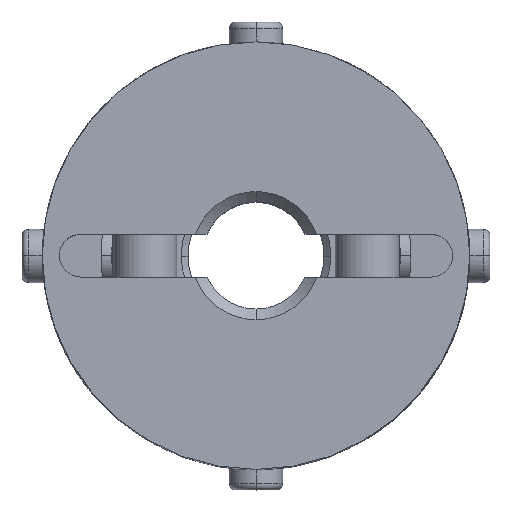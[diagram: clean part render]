
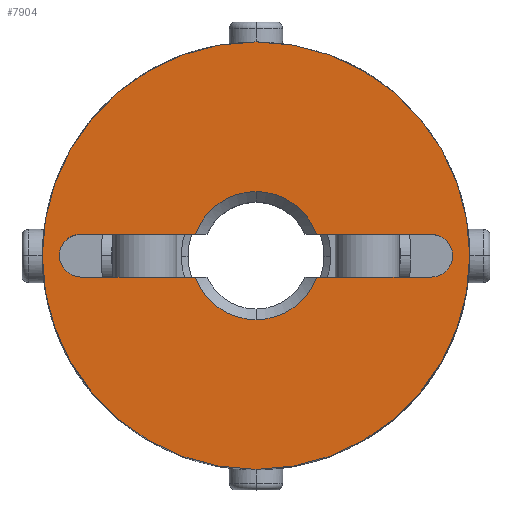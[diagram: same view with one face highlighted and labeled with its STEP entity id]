
A CAD part, top view. The second image highlights one B-rep face of the part: STEP entity #7904.
In plain terms, the highlighted planar face has unit normal (0, 0, 1).
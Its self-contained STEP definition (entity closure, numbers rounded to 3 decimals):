
#633=CARTESIAN_POINT('',(-8.907,-0.707,10.0));
#634=VERTEX_POINT('',#633);
#650=CARTESIAN_POINT('',(-8.2,1.,10.0));
#651=VERTEX_POINT('',#650);
#658=CARTESIAN_POINT('',(-8.2,0.,10.0));
#659=DIRECTION('',(0.0,0.0,1.0));
#660=DIRECTION('',(-0.707,0.707,0.0));
#661=AXIS2_PLACEMENT_3D('',#658,#659,#660);
#662=CIRCLE('',#661,1.);
#663=EDGE_CURVE('',#651,#634,#662,.T.);
#675=CARTESIAN_POINT('',(8.907,0.707,10.0));
#676=VERTEX_POINT('',#675);
#692=CARTESIAN_POINT('',(8.2,-1.,10.0));
#693=VERTEX_POINT('',#692);
#700=CARTESIAN_POINT('',(8.2,0.,10.0));
#701=DIRECTION('',(0.0,0.0,1.0));
#702=DIRECTION('',(0.707,-0.707,0.0));
#703=AXIS2_PLACEMENT_3D('',#700,#701,#702);
#704=CIRCLE('',#703,1.0);
#705=EDGE_CURVE('',#693,#676,#704,.T.);
#715=CARTESIAN_POINT('',(0.,-3.0,10.0));
#716=VERTEX_POINT('',#715);
#724=CARTESIAN_POINT('',(-2.828,-1.,10.0));
#725=VERTEX_POINT('',#724);
#739=CARTESIAN_POINT('',(0.,0.,10.0));
#740=DIRECTION('',(0.0,0.0,1.0));
#741=DIRECTION('',(0.0,-1.0,0.0));
#742=AXIS2_PLACEMENT_3D('',#739,#740,#741);
#743=CIRCLE('',#742,3.0);
#744=EDGE_CURVE('',#725,#716,#743,.T.);
#756=CARTESIAN_POINT('',(0.,3.0,10.0));
#757=VERTEX_POINT('',#756);
#773=CARTESIAN_POINT('',(2.828,1.,10.0));
#774=VERTEX_POINT('',#773);
#788=CARTESIAN_POINT('',(0.,0.,10.0));
#789=DIRECTION('',(0.0,0.0,1.0));
#790=DIRECTION('',(0.0,1.0,0.0));
#791=AXIS2_PLACEMENT_3D('',#788,#789,#790);
#792=CIRCLE('',#791,3.0);
#793=EDGE_CURVE('',#774,#757,#792,.T.);
#1385=CARTESIAN_POINT('',(0.,-10.0,10.0));
#1386=VERTEX_POINT('',#1385);
#1393=CARTESIAN_POINT('',(0.,10.0,10.0));
#1394=VERTEX_POINT('',#1393);
#1395=CARTESIAN_POINT('',(0.0,0.0,10.0));
#1396=DIRECTION('',(0.0,0.0,-1.0));
#1397=DIRECTION('',(0.0,1.0,0.0));
#1398=AXIS2_PLACEMENT_3D('',#1395,#1396,#1397);
#1399=CIRCLE('',#1398,10.0);
#1400=EDGE_CURVE('',#1386,#1394,#1399,.T.);
#7211=CARTESIAN_POINT('',(0.0,0.0,10.0));
#7212=DIRECTION('',(0.0,0.0,-1.0));
#7213=DIRECTION('',(0.0,1.0,0.0));
#7214=AXIS2_PLACEMENT_3D('',#7211,#7212,#7213);
#7215=CIRCLE('',#7214,10.0);
#7216=EDGE_CURVE('',#1394,#1386,#7215,.T.);
#7700=CARTESIAN_POINT('',(2.828,-1.,10.0));
#7701=VERTEX_POINT('',#7700);
#7715=CARTESIAN_POINT('',(8.2,-1.,10.0));
#7716=DIRECTION('',(-1.0,0.0,0.0));
#7717=VECTOR('',#7716,5.372);
#7718=LINE('',#7715,#7717);
#7719=EDGE_CURVE('',#693,#7701,#7718,.T.);
#7778=CARTESIAN_POINT('',(8.2,1.,10.0));
#7779=VERTEX_POINT('',#7778);
#7786=CARTESIAN_POINT('',(2.828,1.,10.0));
#7787=DIRECTION('',(1.0,0.0,0.0));
#7788=VECTOR('',#7787,5.372);
#7789=LINE('',#7786,#7788);
#7790=EDGE_CURVE('',#774,#7779,#7789,.T.);
#7807=CARTESIAN_POINT('',(-2.828,1.,10.0));
#7808=VERTEX_POINT('',#7807);
#7809=CARTESIAN_POINT('',(0.,0.,10.0));
#7810=DIRECTION('',(0.0,0.0,1.0));
#7811=DIRECTION('',(0.0,1.0,0.0));
#7812=AXIS2_PLACEMENT_3D('',#7809,#7810,#7811);
#7813=CIRCLE('',#7812,3.0);
#7814=EDGE_CURVE('',#757,#7808,#7813,.T.);
#7841=CARTESIAN_POINT('',(-8.2,1.,10.0));
#7842=DIRECTION('',(1.0,0.0,0.0));
#7843=VECTOR('',#7842,5.372);
#7844=LINE('',#7841,#7843);
#7845=EDGE_CURVE('',#651,#7808,#7844,.T.);
#7856=CARTESIAN_POINT('',(0.,0.909,10.0));
#7857=DIRECTION('',(0.0,0.0,1.0));
#7858=DIRECTION('',(0.0,1.0,0.0));
#7859=AXIS2_PLACEMENT_3D('',#7856,#7857,#7858);
#7860=PLANE('',#7859);
#7861=ORIENTED_EDGE('',*,*,#7216,.F.);
#7862=ORIENTED_EDGE('',*,*,#1400,.F.);
#7863=EDGE_LOOP('',(#7861,#7862));
#7864=FACE_OUTER_BOUND('',#7863,.T.);
#7865=ORIENTED_EDGE('',*,*,#793,.F.);
#7866=ORIENTED_EDGE('',*,*,#7790,.T.);
#7867=CARTESIAN_POINT('',(8.2,0.,10.0));
#7868=DIRECTION('',(0.0,0.0,1.0));
#7869=DIRECTION('',(0.707,-0.707,0.0));
#7870=AXIS2_PLACEMENT_3D('',#7867,#7868,#7869);
#7871=CIRCLE('',#7870,1.0);
#7872=EDGE_CURVE('',#676,#7779,#7871,.T.);
#7873=ORIENTED_EDGE('',*,*,#7872,.F.);
#7874=ORIENTED_EDGE('',*,*,#705,.F.);
#7875=ORIENTED_EDGE('',*,*,#7719,.T.);
#7876=CARTESIAN_POINT('',(0.,0.,10.0));
#7877=DIRECTION('',(0.0,0.0,1.0));
#7878=DIRECTION('',(0.0,-1.0,0.0));
#7879=AXIS2_PLACEMENT_3D('',#7876,#7877,#7878);
#7880=CIRCLE('',#7879,3.0);
#7881=EDGE_CURVE('',#716,#7701,#7880,.T.);
#7882=ORIENTED_EDGE('',*,*,#7881,.F.);
#7883=ORIENTED_EDGE('',*,*,#744,.F.);
#7884=CARTESIAN_POINT('',(-8.2,-1.,10.0));
#7885=VERTEX_POINT('',#7884);
#7886=CARTESIAN_POINT('',(-2.828,-1.,10.0));
#7887=DIRECTION('',(-1.0,0.0,0.0));
#7888=VECTOR('',#7887,5.372);
#7889=LINE('',#7886,#7888);
#7890=EDGE_CURVE('',#725,#7885,#7889,.T.);
#7891=ORIENTED_EDGE('',*,*,#7890,.T.);
#7892=CARTESIAN_POINT('',(-8.2,0.,10.0));
#7893=DIRECTION('',(0.0,0.0,1.0));
#7894=DIRECTION('',(-0.707,0.707,0.0));
#7895=AXIS2_PLACEMENT_3D('',#7892,#7893,#7894);
#7896=CIRCLE('',#7895,1.);
#7897=EDGE_CURVE('',#634,#7885,#7896,.T.);
#7898=ORIENTED_EDGE('',*,*,#7897,.F.);
#7899=ORIENTED_EDGE('',*,*,#663,.F.);
#7900=ORIENTED_EDGE('',*,*,#7845,.T.);
#7901=ORIENTED_EDGE('',*,*,#7814,.F.);
#7902=EDGE_LOOP('',(#7865,#7866,#7873,#7874,#7875,#7882,#7883,#7891,#7898,#7899,#7900,#7901));
#7903=FACE_BOUND('',#7902,.T.);
#7904=ADVANCED_FACE('',(#7864,#7903),#7860,.T.);
